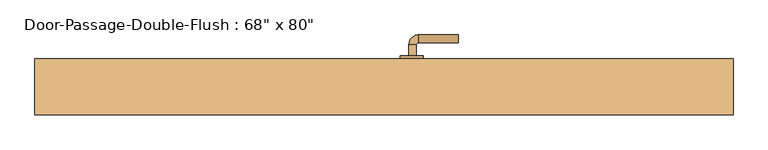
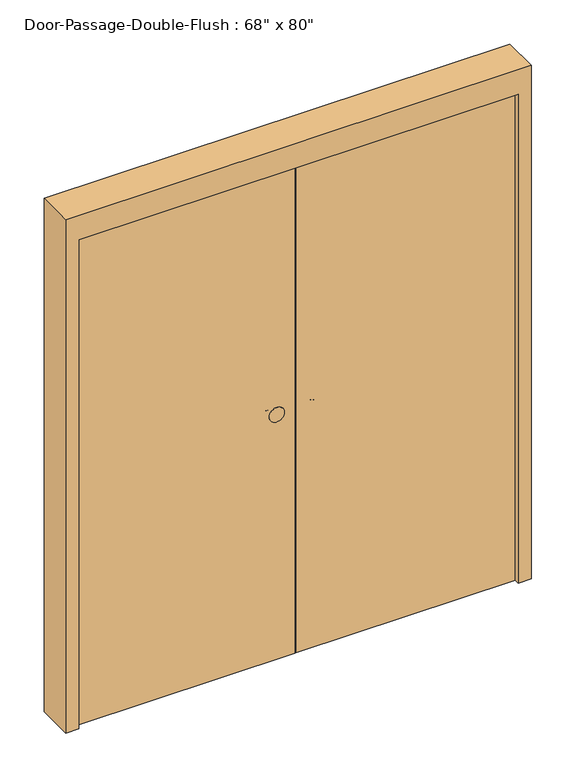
"""IFC4 building model written with IfcOpenShell, lengths in millimetres: door geometry."""

import ifcopenshell
import ifcopenshell.guid

model = None  # the IFC model being written
_history = None  # IfcOwnerHistory: only IFC2X3 demands one
_inside = {}  # id of a spatial element -> (the spatial element, [elements in it])
_under = {}  # id of a project, library or spatial element -> (it, [spatial elements below it])
_declared = {}  # id of a project -> (the project, [libraries it declares])
_typed = {}  # id of a type object -> (the type object, [elements of that type])
_made_of = {}  # id of a material, layer set ... -> (it, [elements and type objects made of it])


def new_model(schema):
    """Start an empty IFC model of exactly this schema.

    Asked for "IFC4X3", IfcOpenShell would pick the latest addendum, in which some entities
    have other attributes; the version numbers below select the first issue.
    IFC2X3 requires an IfcOwnerHistory on every rooted entity: one is made here for all.
    """
    global model, _history
    if schema == "IFC4X3":
        model = ifcopenshell.file(schema_version=(4, 3, 0, 0))
    else:
        model = ifcopenshell.file(schema=schema)
    _inside.clear()
    _under.clear()
    _declared.clear()
    _typed.clear()
    _made_of.clear()
    _history = None
    if model.schema == "IFC2X3":
        org = make("IfcOrganization", Name="unknown")
        user = make(
            "IfcPersonAndOrganization",
            ThePerson=make("IfcPerson", FamilyName="unknown"),
            TheOrganization=org,
        )
        app = make(
            "IfcApplication",
            ApplicationDeveloper=org,
            Version="unknown",
            ApplicationFullName="unknown",
            ApplicationIdentifier="unknown",
        )
        _history = make(
            "IfcOwnerHistory",
            OwningUser=user,
            OwningApplication=app,
            ChangeAction="ADDED",
            CreationDate=0,
        )
    return model


def make(cls, **values):
    """One entity of the class cls with the attributes given. An attribute that is None is left unset."""
    return model.create_entity(
        cls, **{name: value for name, value in values.items() if value is not None}
    )


def rooted(cls, **values):
    """An entity with a GlobalId (a new one), such as an element, a storey or a relation."""
    return make(cls, GlobalId=ifcopenshell.guid.new(), OwnerHistory=_history, **values)


def si_unit(unit_type, name, prefix=None):
    """IfcSIUnit, for example si_unit("LENGTHUNIT", "METRE", prefix="MILLI")."""
    return make("IfcSIUnit", UnitType=unit_type, Prefix=prefix, Name=name)


def assignment(units):
    """IfcUnitAssignment: the units of a project."""
    return None if units is None else make("IfcUnitAssignment", Units=units)


def point(xyz):
    """IfcCartesianPoint."""
    return None if xyz is None else make("IfcCartesianPoint", Coordinates=xyz)


def direction(xyz):
    """IfcDirection."""
    return None if xyz is None else make("IfcDirection", DirectionRatios=xyz)


def frame(location, z_axis=None, x_axis=None):
    """IfcAxis2Placement3D, a coordinate frame: its origin and axes. An axis left out is left unset."""
    return make(
        "IfcAxis2Placement3D",
        Location=point(location),
        Axis=direction(z_axis),
        RefDirection=direction(x_axis),
    )


def frame_2d(location, x_axis=None):
    """IfcAxis2Placement2D, a coordinate frame in the plane: its origin and x axis."""
    return make(
        "IfcAxis2Placement2D", Location=point(location), RefDirection=direction(x_axis)
    )


def origin():
    """The frame at (0, 0, 0) with its axes left unset."""
    return frame((0.0, 0.0, 0.0))


def origin_with_axes():
    """The frame at (0, 0, 0) with the z axis (0, 0, 1) and the x axis (1, 0, 0) written out."""
    return frame((0.0, 0.0, 0.0), z_axis=(0.0, 0.0, 1.0), x_axis=(1.0, 0.0, 0.0))


def place(relative_to, where):
    """IfcLocalPlacement: puts the frame where relative to a parent placement (None: the world)."""
    return make(
        "IfcLocalPlacement", PlacementRelTo=relative_to, RelativePlacement=where
    )


def context(
    kind, dimensions, precision=None, world=None, true_north=None, identifier=None
):
    """IfcGeometricRepresentationContext, for example the 3D "Model" context."""
    return make(
        "IfcGeometricRepresentationContext",
        ContextIdentifier=identifier,
        ContextType=kind,
        CoordinateSpaceDimension=dimensions,
        Precision=precision,
        WorldCoordinateSystem=world,
        TrueNorth=true_north,
    )


def project(units=None, contexts=None):
    """IfcProject with its units and contexts."""
    return rooted(
        "IfcProject",
        Name="project",
        RepresentationContexts=contexts,
        UnitsInContext=assignment(units),
    )


def spatial(cls, under=None, at=None, **own):
    """A site, building, storey or space (cls), placed at a placement, below another one or the project."""
    s = rooted(cls, ObjectPlacement=at, **own)
    if under is not None:
        _under.setdefault(under.id(), (under, []))[1].append(s)
    return s


def polyline(points):
    """IfcPolyline through the points."""
    return make("IfcPolyline", Points=[point(p) for p in points])


def circle_curve(where, radius):
    """IfcCircle in the frame where."""
    return make("IfcCircle", Position=where, Radius=radius)


def ellipse_curve(where, semi_axis1, semi_axis2):
    """IfcEllipse in the frame where."""
    return make(
        "IfcEllipse", Position=where, SemiAxis1=semi_axis1, SemiAxis2=semi_axis2
    )


def trimmed(basis, trim1, trim2, sense, master):
    """IfcTrimmedCurve: the piece of a basis curve between two trims."""
    return make(
        "IfcTrimmedCurve",
        BasisCurve=basis,
        Trim1=trim1,
        Trim2=trim2,
        SenseAgreement=sense,
        MasterRepresentation=master,
    )


def segment(curve, same_sense, transition):
    """IfcCompositeCurveSegment."""
    return make(
        "IfcCompositeCurveSegment",
        Transition=transition,
        SameSense=same_sense,
        ParentCurve=curve,
    )


def composite_curve(segments, self_intersect=None):
    """IfcCompositeCurve: segments joined end to end."""
    return make("IfcCompositeCurve", Segments=segments, SelfIntersect=self_intersect)


def outline(outer, holes=None, kind="AREA"):
    """IfcArbitraryClosedProfileDef: a profile drawn as a closed curve; with holes, ...WithVoids."""
    if holes is None:
        return make("IfcArbitraryClosedProfileDef", ProfileType=kind, OuterCurve=outer)
    return make(
        "IfcArbitraryProfileDefWithVoids",
        ProfileType=kind,
        OuterCurve=outer,
        InnerCurves=holes,
    )


def extrude(swept, where, along, depth):
    """IfcExtrudedAreaSolid: the profile swept, set in the frame where, extruded along a direction by depth."""
    return make(
        "IfcExtrudedAreaSolid",
        SweptArea=swept,
        Position=where,
        ExtrudedDirection=direction(along),
        Depth=depth,
    )


def faces_of(points, faces, orient=None, outer=None):
    """IfcFace entities. A face is a list of loops; a loop is a list of indices into points, from 0.

    orient and outer hold one flag for each loop. By default every Orientation is true, the
    first loop of a face is its IfcFaceOuterBound and the others are IfcFaceBound.
    """
    made = []
    for i, loops in enumerate(faces):
        bounds = []
        for j, loop in enumerate(loops):
            is_outer = j == 0 if outer is None else outer[i][j]
            bounds.append(
                make(
                    "IfcFaceOuterBound" if is_outer else "IfcFaceBound",
                    Bound=make("IfcPolyLoop", Polygon=[points[k] for k in loop]),
                    Orientation=True if orient is None else orient[i][j],
                )
            )
        made.append(make("IfcFace", Bounds=bounds))
    return made


def faceted_brep(points, faces, orient=None, outer=None, voids=None):
    """IfcFacetedBrep: a solid bounded by flat faces; with voids (closed shells), ...WithVoids."""
    shared = [point(p) for p in points]
    hull = make("IfcClosedShell", CfsFaces=faces_of(shared, faces, orient, outer))
    if voids is None:
        return make("IfcFacetedBrep", Outer=hull)
    return make(
        "IfcFacetedBrepWithVoids",
        Outer=hull,
        Voids=[
            make(cls, CfsFaces=faces_of(shared, fs, o, b)) for cls, fs, o, b in voids
        ],
    )


def shape(context_of_items, identifier, shape_type, items):
    """IfcShapeRepresentation: the items that make up one representation, for example the "Body"."""
    return make(
        "IfcShapeRepresentation",
        ContextOfItems=context_of_items,
        RepresentationIdentifier=identifier,
        RepresentationType=shape_type,
        Items=items,
    )


def source(mapping_origin, context_of_items, identifier, shape_type, items):
    """IfcRepresentationMap: a shape defined once, which mapped items show again and again."""
    return make(
        "IfcRepresentationMap",
        MappingOrigin=mapping_origin,
        MappedRepresentation=shape(context_of_items, identifier, shape_type, items),
    )


def transform(
    local_origin,
    x_axis=None,
    y_axis=None,
    z_axis=None,
    scale=None,
    scale2=None,
    scale3=None,
    uniform=True,
):
    """IfcCartesianTransformationOperator3D, or its non-uniform kind. x_axis, y_axis, z_axis: its Axis1, 2, 3."""
    if uniform:
        return make(
            "IfcCartesianTransformationOperator3D",
            Axis1=direction(x_axis),
            Axis2=direction(y_axis),
            LocalOrigin=point(local_origin),
            Scale=scale,
            Axis3=direction(z_axis),
        )
    return make(
        "IfcCartesianTransformationOperator3DnonUniform",
        Axis1=direction(x_axis),
        Axis2=direction(y_axis),
        LocalOrigin=point(local_origin),
        Scale=scale,
        Axis3=direction(z_axis),
        Scale2=scale2,
        Scale3=scale3,
    )


def mapped(mapping_source, mapping_target):
    """IfcMappedItem: shows the shape of a source again, moved by a transform."""
    return make(
        "IfcMappedItem", MappingSource=mapping_source, MappingTarget=mapping_target
    )


def made_of(thing, what):
    """Note that an element or type object is made of a material, layer set ...; save() writes the relation."""
    if what is not None:
        _made_of.setdefault(what.id(), (what, []))[1].append(thing)
    return thing


def element(
    cls,
    number,
    at=None,
    inside=None,
    cuts=None,
    type_object=None,
    material=None,
    context=None,
    identifier="Body",
    shape_type=None,
    held_by="IfcProductDefinitionShape",
    body=None,
    shapes=None,
    **own,
):
    """One element of the class cls, such as IfcWall. Its Tag is "e" and its number.

    at: its placement. inside: the storey or other place that contains it. cuts: it is an
    opening in that element (IfcRelVoidsElement). A single representation is given by context,
    identifier, shape_type and body (its items); several are given by shapes. held_by: the class
    of the entity that holds the representations. save() writes the other relations.
    """
    e = rooted(cls, Tag="e%d" % number, ObjectPlacement=at, **own)
    if body is not None:
        shapes = [shape(context, identifier, shape_type, body)]
    if shapes is not None:
        e.Representation = make(held_by, Representations=shapes)
    if inside is not None:
        _inside.setdefault(inside.id(), (inside, []))[1].append(e)
    if cuts is not None:
        rooted(
            "IfcRelVoidsElement", RelatingBuildingElement=cuts, RelatedOpeningElement=e
        )
    if type_object is not None:
        _typed.setdefault(type_object.id(), (type_object, []))[1].append(e)
    return made_of(e, material)


def aggregate(whole, parts):
    """IfcRelAggregates: a whole, such as a stair, and the parts it consists of."""
    return rooted("IfcRelAggregates", RelatingObject=whole, RelatedObjects=parts)


def save(model, path):
    """Write the relations noted so far, then the file.

    IfcRelAggregates (storeys below a building ...), IfcRelContainedInSpatialStructure (elements
    in a storey), IfcRelDefinesByType, IfcRelAssociatesMaterial and IfcRelDeclares: one each for
    every whole, place, type object, material and project.
    """
    for whole, parts in _under.values():
        aggregate(whole, parts)
    for where, things in _inside.values():
        rooted(
            "IfcRelContainedInSpatialStructure",
            RelatedElements=things,
            RelatingStructure=where,
        )
    for kind, things in _typed.values():
        rooted("IfcRelDefinesByType", RelatedObjects=things, RelatingType=kind)
    for what, things in _made_of.values():
        rooted("IfcRelAssociatesMaterial", RelatedObjects=things, RelatingMaterial=what)
    for by, libraries in _declared.values():
        rooted("IfcRelDeclares", RelatingContext=by, RelatedDefinitions=libraries)
    model.write(path)


def plane_surface(at):
    """IfcPlane: the flat surface through the origin of the frame at, square to its z axis."""
    return make("IfcPlane", Position=at)


def cylinder_surface(at, radius):
    """IfcCylindricalSurface: all points at the distance radius from the z axis of the frame at."""
    return make("IfcCylindricalSurface", Position=at, Radius=radius)


def revolved_surface(curve, axis_point, axis_direction):
    """IfcSurfaceOfRevolution: the curve turned about the line through axis_point along axis_direction."""
    return make(
        "IfcSurfaceOfRevolution",
        SweptCurve=make("IfcArbitraryOpenProfileDef", ProfileType="CURVE", Curve=curve),
        AxisPosition=make("IfcAxis1Placement", Location=point(axis_point), Axis=direction(axis_direction)),
    )


def advanced_brep(points, edges, surfaces, faces):
    """IfcAdvancedBrep: a solid bounded by faces that lie on surfaces and meet in shared edges.

    An edge is (start, end): straight between two places in points (the first is 0);
    or (start, end, curve); or (start, end, curve, False) where it runs against its curve.
    A face is (place in surfaces, loops), or (place, loops, False) where it looks against
    its surface's normal. A loop lists edges by number (the first is 1), with a minus sign
    where the edge is run from its end to its start. The first loop is the outer one.
    """
    corners = [point(p) for p in points]
    vertices = [make("IfcVertexPoint", VertexGeometry=c) for c in corners]
    made = []
    for start, end, *more in edges:
        made.append(
            make(
                "IfcEdgeCurve",
                EdgeStart=vertices[start],
                EdgeEnd=vertices[end],
                EdgeGeometry=more[0] if more else make("IfcPolyline", Points=[corners[start], corners[end]]),
                SameSense=more[1] if len(more) > 1 else True,
            )
        )
    hull = []
    for where, loops, *sense in faces:
        bounds = []
        for j, loop in enumerate(loops):
            ring = [make("IfcOrientedEdge", EdgeElement=made[abs(k) - 1], Orientation=k > 0) for k in loop]
            bounds.append(
                make(
                    "IfcFaceOuterBound" if j == 0 else "IfcFaceBound",
                    Bound=make("IfcEdgeLoop", EdgeList=ring),
                    Orientation=True,
                )
            )
        hull.append(make("IfcAdvancedFace", Bounds=bounds, FaceSurface=surfaces[where], SameSense=sense[0] if sense else True))
    return make("IfcAdvancedBrep", Outer=make("IfcClosedShell", CfsFaces=hull))


def door_efda3cbc(model_context):
    return source(origin(), model_context, "Body", "SolidModel", [
        advanced_brep(
        [(-65.009375, 155.5125, 1016.0), (-85.009375, 155.5125, 1016.0), (-65.009375, 125.5125, 1016.0), (-85.009375, 125.5125, 1016.0), (-90.009375, 120.5125, 1016.0), (-90.009375, 100.5125, 1016.0), (-195.009375, 100.5125, 1016.0), (-195.009375, 120.5125, 1016.0)],
        [
            (0, 1, circle_curve(frame((-75.009375, 155.5125, 1016.0), z_axis=(0.0, 1.0, 0.0), x_axis=(-1.0, 0.0, 0.0)), 10.0)),
            (1, 0, circle_curve(frame((-75.009375, 155.5125, 1016.0), z_axis=(0.0, 1.0, 0.0), x_axis=(-1.0, 0.0, 0.0)), 10.0)),
            (0, 2),
            (2, 3, circle_curve(frame((-75.009375, 125.5125, 1016.0), z_axis=(0.0, 1.0, 0.0), x_axis=(-1.0, 0.0, 0.0)), 10.0)),
            (3, 1),
            (3, 2, circle_curve(frame((-75.009375, 125.5125, 1016.0), z_axis=(0.0, 1.0, 0.0), x_axis=(-1.0, 0.0, 0.0)), 10.0)),
            (4, 3, circle_curve(frame((-90.009375, 125.5125, 1016.0), z_axis=(0.0, 0.0, 1.0), x_axis=(1.0, 0.0, 0.0)), 5.0)),
            (2, 5, circle_curve(frame((-90.009375, 125.5125, 1016.0), z_axis=(0.0, 0.0, -1.0), x_axis=(1.0, 0.0, 0.0)), 25.0)),
            (5, 4, circle_curve(frame((-90.009375, 110.5125, 1016.0), z_axis=(1.0, 0.0, 0.0), x_axis=(0.0, 1.0, 0.0)), 10.0)),
            (4, 5, circle_curve(frame((-90.009375, 110.5125, 1016.0), z_axis=(1.0, 0.0, 0.0), x_axis=(0.0, 1.0, 0.0)), 10.0)),
            (6, 7, circle_curve(frame((-195.009375, 110.5125, 1016.0), z_axis=(-1.0, 0.0, 0.0), x_axis=(0.0, 1.0, 0.0)), 10.0)),
            (7, 6, circle_curve(frame((-195.009375, 110.5125, 1016.0), z_axis=(-1.0, 0.0, 0.0), x_axis=(0.0, 1.0, 0.0)), 10.0)),
            (5, 6),
            (7, 4),
        ],
        [
            plane_surface(frame((-75.009375, 155.5125, 1016.0), z_axis=(0.0, 1.0, 0.0), x_axis=(0.0, 0.0, 1.0))),
            cylinder_surface(frame((-75.009375, 155.5125, 1016.0), z_axis=(0.0, 1.0, 0.0), x_axis=(-1.0, 0.0, 0.0)), 10.0),
            revolved_surface(trimmed(ellipse_curve(frame((-75.009375, 125.5125, 1016.0), z_axis=(0.0, 1.0, 0.0), x_axis=(-1.0, 0.0, 0.0)), 10.0, 10.0), [point((-65.009375, 125.5125, 1016.0))], [point((-85.009375, 125.5125, 1016.0))], True, "CARTESIAN"), (-90.009375, 125.5125, 1016.0), (0.0, 0.0, -1.0)),
            revolved_surface(trimmed(ellipse_curve(frame((-75.009375, 125.5125, 1016.0), z_axis=(0.0, 1.0, 0.0), x_axis=(-1.0, 0.0, 0.0)), 10.0, 10.0), [point((-85.009375, 125.5125, 1016.0))], [point((-65.009375, 125.5125, 1016.0))], True, "CARTESIAN"), (-90.009375, 125.5125, 1016.0), (0.0, 0.0, -1.0)),
            plane_surface(frame((-195.009375, 110.5125, 1016.0), z_axis=(-1.0, 0.0, 0.0), x_axis=(0.0, 0.0, 1.0))),
            cylinder_surface(frame((-90.009375, 110.5125, 1016.0), z_axis=(1.0, 0.0, 0.0), x_axis=(0.0, 1.0, 0.0)), 10.0),
        ],
        [
            (0, [[1, 2]]),
            (1, [[-1, 3, 4, 5]]),
            (1, [[-2, -5, 6, -3]]),
            (2, [[7, -4, 8, 9]]),
            (3, [[-8, -6, -7, 10]]),
            (4, [[11, 12]]),
            (5, [[-9, 13, -12, 14]]),
            (5, [[-10, -14, -11, -13]]),
        ],
    ),
        extrude(outline(composite_curve([segment(trimmed(circle_curve(frame_2d((1016.0, -72.509375)), 30.0), [point((1016.0, -42.509375))], [point((1016.0, -102.509375))], False, "CARTESIAN"), True, "CONTINUOUS"), segment(trimmed(circle_curve(frame_2d((1016.0, -72.509375)), 30.0), [point((1016.0, -102.509375))], [point((1016.0, -42.509375))], False, "CARTESIAN"), True, "CONTINUOUS")], self_intersect=False)), frame((0.0, 155.5125, 0.0), z_axis=(0.0, 1.0, 0.0), x_axis=(0.0, 0.0, 1.0)), (0.0, 0.0, 1.0), 8.0),
        advanced_brep(
        [(-65.009375, 90.55, 1016.0), (-85.009375, 90.55, 1016.0), (-85.009375, 120.55, 1016.0), (-65.009375, 120.55, 1016.0), (-90.009375, 125.55, 1016.0), (-90.009375, 145.55, 1016.0), (-195.009375, 145.55, 1016.0), (-195.009375, 125.55, 1016.0)],
        [
            (0, 1, circle_curve(frame((-75.009375, 90.55, 1016.0), z_axis=(0.0, -1.0, 0.0), x_axis=(-1.0, 0.0, 0.0)), 10.0)),
            (1, 0, circle_curve(frame((-75.009375, 90.55, 1016.0), z_axis=(0.0, -1.0, 0.0), x_axis=(-1.0, 0.0, 0.0)), 10.0)),
            (1, 2),
            (2, 3, circle_curve(frame((-75.009375, 120.55, 1016.0), z_axis=(0.0, -1.0, 0.0), x_axis=(-1.0, 0.0, 0.0)), 10.0)),
            (3, 0),
            (3, 2, circle_curve(frame((-75.009375, 120.55, 1016.0), z_axis=(0.0, -1.0, 0.0), x_axis=(-1.0, 0.0, 0.0)), 10.0)),
            (4, 5, circle_curve(frame((-90.009375, 135.55, 1016.0), z_axis=(1.0, 0.0, 0.0), x_axis=(0.0, -1.0, 0.0)), 10.0)),
            (5, 3, circle_curve(frame((-90.009375, 120.55, 1016.0), z_axis=(0.0, 0.0, -1.0), x_axis=(1.0, 0.0, 0.0)), 25.0)),
            (2, 4, circle_curve(frame((-90.009375, 120.55, 1016.0), z_axis=(0.0, 0.0, 1.0), x_axis=(1.0, 0.0, 0.0)), 5.0)),
            (5, 4, circle_curve(frame((-90.009375, 135.55, 1016.0), z_axis=(1.0, 0.0, 0.0), x_axis=(0.0, -1.0, 0.0)), 10.0)),
            (6, 7, circle_curve(frame((-195.009375, 135.55, 1016.0), z_axis=(-1.0, 0.0, 0.0), x_axis=(0.0, -1.0, 0.0)), 10.0)),
            (7, 6, circle_curve(frame((-195.009375, 135.55, 1016.0), z_axis=(-1.0, 0.0, 0.0), x_axis=(0.0, -1.0, 0.0)), 10.0)),
            (4, 7),
            (6, 5),
        ],
        [
            plane_surface(frame((-75.009375, 90.55, 1016.0), z_axis=(0.0, -1.0, 0.0), x_axis=(0.0, 0.0, 1.0))),
            cylinder_surface(frame((-75.009375, 90.55, 1016.0), z_axis=(0.0, -1.0, 0.0), x_axis=(-1.0, 0.0, 0.0)), 10.0),
            revolved_surface(trimmed(ellipse_curve(frame((-75.009375, 120.55, 1016.0), z_axis=(0.0, 1.0, 0.0), x_axis=(-1.0, 0.0, 0.0)), 10.0, 10.0), [point((-65.009375, 120.55, 1016.0))], [point((-85.009375, 120.55, 1016.0))], True, "CARTESIAN"), (-90.009375, 120.55, 1016.0), (0.0, 0.0, -1.0)),
            revolved_surface(trimmed(ellipse_curve(frame((-75.009375, 120.55, 1016.0), z_axis=(0.0, 1.0, 0.0), x_axis=(-1.0, 0.0, 0.0)), 10.0, 10.0), [point((-85.009375, 120.55, 1016.0))], [point((-65.009375, 120.55, 1016.0))], True, "CARTESIAN"), (-90.009375, 120.55, 1016.0), (0.0, 0.0, -1.0)),
            plane_surface(frame((-195.009375, 135.55, 1016.0), z_axis=(-1.0, 0.0, 0.0), x_axis=(0.0, 0.0, 1.0))),
            cylinder_surface(frame((-90.009375, 135.55, 1016.0), z_axis=(1.0, 0.0, 0.0), x_axis=(0.0, -1.0, 0.0)), 10.0),
        ],
        [
            (0, [[1, 2]]),
            (1, [[3, 4, 5, -2]]),
            (1, [[-5, 6, -3, -1]]),
            (2, [[7, 8, -4, 9]]),
            (3, [[10, -9, -6, -8]]),
            (4, [[11, 12]]),
            (5, [[13, -11, 14, -7]]),
            (5, [[-14, -12, -13, -10]]),
        ],
    ),
        extrude(outline(composite_curve([segment(trimmed(circle_curve(frame_2d((1016.0, -72.509375)), 30.0), [point((1016.0, -42.509375))], [point((1016.0, -102.509375))], False, "CARTESIAN"), True, "CONTINUOUS"), segment(trimmed(circle_curve(frame_2d((1016.0, -72.509375)), 30.0), [point((1016.0, -102.509375))], [point((1016.0, -42.509375))], False, "CARTESIAN"), True, "CONTINUOUS")], self_intersect=False)), frame((0.0, 82.55, 0.0), z_axis=(0.0, 1.0, 0.0), x_axis=(0.0, 0.0, 1.0)), (0.0, 0.0, 1.0), 8.0),
        advanced_brep(
        [(65.009375, 155.5125, 1016.0), (85.009375, 155.5125, 1016.0), (85.009375, 125.5125, 1016.0), (65.009375, 125.5125, 1016.0), (90.009375, 120.5125, 1016.0), (90.009375, 100.5125, 1016.0), (195.009375, 100.5125, 1016.0), (195.009375, 120.5125, 1016.0)],
        [
            (0, 1, circle_curve(frame((75.009375, 155.5125, 1016.0), z_axis=(0.0, 1.0, 0.0), x_axis=(1.0, 0.0, 0.0)), 10.0)),
            (1, 0, circle_curve(frame((75.009375, 155.5125, 1016.0), z_axis=(0.0, 1.0, 0.0), x_axis=(1.0, 0.0, 0.0)), 10.0)),
            (1, 2),
            (2, 3, circle_curve(frame((75.009375, 125.5125, 1016.0), z_axis=(0.0, 1.0, 0.0), x_axis=(1.0, 0.0, 0.0)), 10.0)),
            (3, 0),
            (3, 2, circle_curve(frame((75.009375, 125.5125, 1016.0), z_axis=(0.0, 1.0, 0.0), x_axis=(1.0, 0.0, 0.0)), 10.0)),
            (4, 5, circle_curve(frame((90.009375, 110.5125, 1016.0), z_axis=(-1.0, 0.0, 0.0), x_axis=(0.0, 1.0, 0.0)), 10.0)),
            (5, 3, circle_curve(frame((90.009375, 125.5125, 1016.0), z_axis=(0.0, 0.0, -1.0), x_axis=(-1.0, 0.0, 0.0)), 25.0)),
            (2, 4, circle_curve(frame((90.009375, 125.5125, 1016.0), z_axis=(0.0, 0.0, 1.0), x_axis=(-1.0, 0.0, 0.0)), 5.0)),
            (5, 4, circle_curve(frame((90.009375, 110.5125, 1016.0), z_axis=(-1.0, 0.0, 0.0), x_axis=(0.0, 1.0, 0.0)), 10.0)),
            (6, 7, circle_curve(frame((195.009375, 110.5125, 1016.0), z_axis=(1.0, 0.0, 0.0), x_axis=(0.0, 1.0, 0.0)), 10.0)),
            (7, 6, circle_curve(frame((195.009375, 110.5125, 1016.0), z_axis=(1.0, 0.0, 0.0), x_axis=(0.0, 1.0, 0.0)), 10.0)),
            (4, 7),
            (6, 5),
        ],
        [
            plane_surface(frame((75.009375, 155.5125, 1016.0), z_axis=(0.0, 1.0, 0.0), x_axis=(0.0, 0.0, 1.0))),
            cylinder_surface(frame((75.009375, 155.5125, 1016.0), z_axis=(0.0, 1.0, 0.0), x_axis=(1.0, 0.0, 0.0)), 10.0),
            revolved_surface(trimmed(ellipse_curve(frame((75.009375, 125.5125, 1016.0), z_axis=(0.0, -1.0, 0.0), x_axis=(1.0, 0.0, 0.0)), 10.0, 10.0), [point((65.009375, 125.5125, 1016.0))], [point((85.009375, 125.5125, 1016.0))], True, "CARTESIAN"), (90.009375, 125.5125, 1016.0), (0.0, 0.0, -1.0)),
            revolved_surface(trimmed(ellipse_curve(frame((75.009375, 125.5125, 1016.0), z_axis=(0.0, -1.0, 0.0), x_axis=(1.0, 0.0, 0.0)), 10.0, 10.0), [point((85.009375, 125.5125, 1016.0))], [point((65.009375, 125.5125, 1016.0))], True, "CARTESIAN"), (90.009375, 125.5125, 1016.0), (0.0, 0.0, -1.0)),
            plane_surface(frame((195.009375, 110.5125, 1016.0), z_axis=(1.0, 0.0, 0.0), x_axis=(0.0, 0.0, 1.0))),
            cylinder_surface(frame((90.009375, 110.5125, 1016.0), z_axis=(-1.0, 0.0, 0.0), x_axis=(0.0, 1.0, 0.0)), 10.0),
        ],
        [
            (0, [[1, 2]]),
            (1, [[3, 4, 5, -2]]),
            (1, [[-5, 6, -3, -1]]),
            (2, [[7, 8, -4, 9]]),
            (3, [[10, -9, -6, -8]]),
            (4, [[11, 12]]),
            (5, [[13, -11, 14, -7]]),
            (5, [[-14, -12, -13, -10]]),
        ],
    ),
        extrude(outline(composite_curve([segment(trimmed(circle_curve(frame_2d((1016.0, 72.509375)), 30.0), [point((1016.0, 42.509375))], [point((1016.0, 102.509375))], False, "CARTESIAN"), True, "CONTINUOUS"), segment(trimmed(circle_curve(frame_2d((1016.0, 72.509375)), 30.0), [point((1016.0, 102.509375))], [point((1016.0, 42.509375))], False, "CARTESIAN"), True, "CONTINUOUS")], self_intersect=False)), frame((0.0, 155.5125, 0.0), z_axis=(0.0, 1.0, 0.0), x_axis=(0.0, 0.0, 1.0)), (0.0, 0.0, 1.0), 8.0),
        advanced_brep(
        [(65.009375, 215.9625, 1016.0), (85.009375, 215.9625, 1016.0), (65.009375, 245.9625, 1016.0), (85.009375, 245.9625, 1016.0), (90.009375, 250.9625, 1016.0), (90.009375, 270.9625, 1016.0), (195.009375, 270.9625, 1016.0), (195.009375, 250.9625, 1016.0)],
        [
            (0, 1, circle_curve(frame((75.009375, 215.9625, 1016.0), z_axis=(0.0, -1.0, 0.0), x_axis=(1.0, 0.0, 0.0)), 10.0)),
            (1, 0, circle_curve(frame((75.009375, 215.9625, 1016.0), z_axis=(0.0, -1.0, 0.0), x_axis=(1.0, 0.0, 0.0)), 10.0)),
            (0, 2),
            (2, 3, circle_curve(frame((75.009375, 245.9625, 1016.0), z_axis=(0.0, -1.0, 0.0), x_axis=(1.0, 0.0, 0.0)), 10.0)),
            (3, 1),
            (3, 2, circle_curve(frame((75.009375, 245.9625, 1016.0), z_axis=(0.0, -1.0, 0.0), x_axis=(1.0, 0.0, 0.0)), 10.0)),
            (4, 3, circle_curve(frame((90.009375, 245.9625, 1016.0), z_axis=(0.0, 0.0, 1.0), x_axis=(-1.0, 0.0, 0.0)), 5.0)),
            (2, 5, circle_curve(frame((90.009375, 245.9625, 1016.0), z_axis=(0.0, 0.0, -1.0), x_axis=(-1.0, 0.0, 0.0)), 25.0)),
            (5, 4, circle_curve(frame((90.009375, 260.9625, 1016.0), z_axis=(-1.0, 0.0, 0.0), x_axis=(0.0, -1.0, 0.0)), 10.0)),
            (4, 5, circle_curve(frame((90.009375, 260.9625, 1016.0), z_axis=(-1.0, 0.0, 0.0), x_axis=(0.0, -1.0, 0.0)), 10.0)),
            (6, 7, circle_curve(frame((195.009375, 260.9625, 1016.0), z_axis=(1.0, 0.0, 0.0), x_axis=(0.0, -1.0, 0.0)), 10.0)),
            (7, 6, circle_curve(frame((195.009375, 260.9625, 1016.0), z_axis=(1.0, 0.0, 0.0), x_axis=(0.0, -1.0, 0.0)), 10.0)),
            (5, 6),
            (7, 4),
        ],
        [
            plane_surface(frame((75.009375, 215.9625, 1016.0), z_axis=(0.0, -1.0, 0.0), x_axis=(0.0, 0.0, 1.0))),
            cylinder_surface(frame((75.009375, 215.9625, 1016.0), z_axis=(0.0, -1.0, 0.0), x_axis=(1.0, 0.0, 0.0)), 10.0),
            revolved_surface(trimmed(ellipse_curve(frame((75.009375, 245.9625, 1016.0), z_axis=(0.0, -1.0, 0.0), x_axis=(1.0, 0.0, 0.0)), 10.0, 10.0), [point((65.009375, 245.9625, 1016.0))], [point((85.009375, 245.9625, 1016.0))], True, "CARTESIAN"), (90.009375, 245.9625, 1016.0), (0.0, 0.0, -1.0)),
            revolved_surface(trimmed(ellipse_curve(frame((75.009375, 245.9625, 1016.0), z_axis=(0.0, -1.0, 0.0), x_axis=(1.0, 0.0, 0.0)), 10.0, 10.0), [point((85.009375, 245.9625, 1016.0))], [point((65.009375, 245.9625, 1016.0))], True, "CARTESIAN"), (90.009375, 245.9625, 1016.0), (0.0, 0.0, -1.0)),
            plane_surface(frame((195.009375, 260.9625, 1016.0), z_axis=(1.0, 0.0, 0.0), x_axis=(0.0, 0.0, 1.0))),
            cylinder_surface(frame((90.009375, 260.9625, 1016.0), z_axis=(-1.0, 0.0, 0.0), x_axis=(0.0, -1.0, 0.0)), 10.0),
        ],
        [
            (0, [[1, 2]]),
            (1, [[-1, 3, 4, 5]]),
            (1, [[-2, -5, 6, -3]]),
            (2, [[7, -4, 8, 9]]),
            (3, [[-8, -6, -7, 10]]),
            (4, [[11, 12]]),
            (5, [[-9, 13, -12, 14]]),
            (5, [[-10, -14, -11, -13]]),
        ],
    ),
        extrude(outline(composite_curve([segment(trimmed(circle_curve(frame_2d((1016.0, 72.509375)), 30.0), [point((1016.0, 42.509375))], [point((1016.0, 102.509375))], False, "CARTESIAN"), True, "CONTINUOUS"), segment(trimmed(circle_curve(frame_2d((1016.0, 72.509375)), 30.0), [point((1016.0, 102.509375))], [point((1016.0, 42.509375))], False, "CARTESIAN"), True, "CONTINUOUS")], self_intersect=False)), frame((0.0, 207.9625, 0.0), z_axis=(0.0, 1.0, 0.0), x_axis=(0.0, 0.0, 1.0)), (0.0, 0.0, 1.0), 8.0),
        faceted_brep([(863.6, 158.75, 0.0), (863.6, 207.9625, 0.0), (914.4, 207.9625, 0.0), (914.4, 61.9125, 0.0), (863.6, 61.9125, 0.0), (863.6, 111.125, 0.0), (847.725, 111.125, 0.0), (847.725, 158.75, 0.0), (863.6, 158.75, 2032.0), (863.6, 207.9625, 2032.0), (-863.6, 207.9625, 2032.0), (-863.6, 207.9625, 0.0), (-914.4, 207.9625, 0.0), (-914.4, 207.9625, 2133.6), (914.4, 207.9625, 2133.6), (914.4, 61.9125, 2133.6), (-914.4, 61.9125, 2133.6), (-914.4, 61.9125, 0.0), (-863.6, 61.9125, 0.0), (-863.6, 61.9125, 2032.0), (863.6, 61.9125, 2032.0), (863.6, 111.125, 2032.0), (-863.6, 111.125, 2032.0), (-863.6, 111.125, 0.0), (-847.725, 111.125, 0.0), (-847.725, 111.125, 2016.125), (847.725, 111.125, 2016.125), (847.725, 158.75, 2016.125), (-847.725, 158.75, 2016.125), (-847.725, 158.75, 0.0), (-863.6, 158.75, 0.0), (-863.6, 158.75, 2032.0)], [[[0, 1, 2, 3, 4, 5, 6, 7]], [[1, 0, 8, 9]], [[2, 1, 9, 10, 11, 12, 13, 14]], [[3, 2, 14, 15]], [[4, 3, 15, 16, 17, 18, 19, 20]], [[5, 4, 20, 21]], [[6, 5, 21, 22, 23, 24, 25, 26]], [[7, 6, 26, 27]], [[0, 7, 27, 28, 29, 30, 31, 8]], [[9, 8, 31, 10]], [[20, 19, 22, 21]], [[26, 25, 28, 27]], [[12, 11, 30, 29, 24, 23, 18, 17]], [[11, 10, 31, 30]], [[13, 12, 17, 16]], [[19, 18, 23, 22]], [[25, 24, 29, 28]], [[15, 14, 13, 16]]]),
        extrude(outline(polyline([(863.6, 82.55), (1.5875, 82.55), (1.5875, 163.5125), (863.6, 163.5125), (863.6, 82.55)])), origin_with_axes(), (0.0, 0.0, 1.0), 2032.0),
        extrude(outline(polyline([(-1.5875, 82.55), (-863.6, 82.55), (-863.6, 163.5125), (-1.5875, 163.5125), (-1.5875, 82.55)])), origin_with_axes(), (0.0, 0.0, 1.0), 2032.0),
    ])


if __name__ == "__main__":
    model = new_model("IFC4")
    model_context = context("Model", 3, world=origin())
    ifc_project = project(units=[si_unit("LENGTHUNIT", "METRE", prefix="MILLI")], contexts=[model_context])
    site = spatial("IfcSite", under=ifc_project)
    building = spatial("IfcBuilding", under=site)
    placement = place(None, origin())
    door_shape = door_efda3cbc(model_context)
    element("IfcDoor", 1, ObjectType="Door-Passage-Double-Flush : 68\" x 80\"", at=placement, inside=building, context=model_context, shape_type="MappedRepresentation", body=[
        mapped(door_shape, transform((0.0, 0.0, 0.0), x_axis=(1.0, 0.0, 0.0), y_axis=(0.0, 1.0, 0.0), z_axis=(0.0, 0.0, 1.0))),
    ])
    save(model, "model.ifc")
